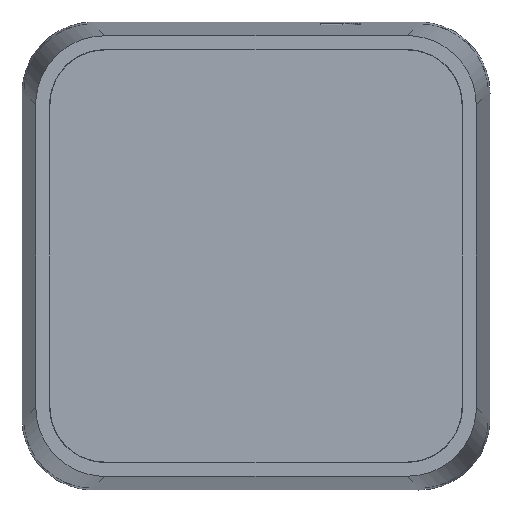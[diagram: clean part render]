
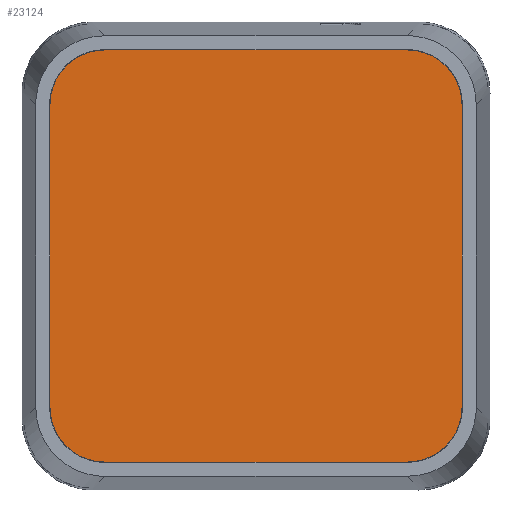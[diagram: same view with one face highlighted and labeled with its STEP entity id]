
A CAD part, front view. The second image highlights one B-rep face of the part: STEP entity #23124.
In plain terms, the highlighted planar face has unit normal (0, -1, 0).
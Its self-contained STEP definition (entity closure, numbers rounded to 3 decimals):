
#22879=CARTESIAN_POINT('',(3.732,0.,-11.663));
#22880=CARTESIAN_POINT('',(3.732,0.,-10.276));
#22881=CARTESIAN_POINT('',(4.473,0.,-7.508));
#22882=CARTESIAN_POINT('',(7.508,0.,-4.473));
#22883=CARTESIAN_POINT('',(10.276,0.,-3.732));
#22884=CARTESIAN_POINT('',(11.663,0.,-3.732));
#22886=DIRECTION('',(1.,0.,0.));
#22887=VECTOR('',#22886,43.673);
#22888=CARTESIAN_POINT('',(11.663,0.,-3.732));
#22889=LINE('',#22888,#22887);
#22890=CARTESIAN_POINT('',(55.337,0.,-3.732));
#22891=CARTESIAN_POINT('',(56.724,0.,-3.732));
#22892=CARTESIAN_POINT('',(59.492,0.,-4.473));
#22893=CARTESIAN_POINT('',(62.527,0.,-7.508));
#22894=CARTESIAN_POINT('',(63.268,0.,-10.276));
#22895=CARTESIAN_POINT('',(63.268,0.,-11.663));
#22897=DIRECTION('',(0.,0.,-1.));
#22898=VECTOR('',#22897,43.673);
#22899=CARTESIAN_POINT('',(63.268,0.,-11.663));
#22900=LINE('',#22899,#22898);
#22901=CARTESIAN_POINT('',(63.268,0.,-55.337));
#22902=CARTESIAN_POINT('',(63.268,0.,-56.724));
#22903=CARTESIAN_POINT('',(62.527,0.,-59.492));
#22904=CARTESIAN_POINT('',(59.492,0.,-62.527));
#22905=CARTESIAN_POINT('',(56.724,0.,-63.268));
#22906=CARTESIAN_POINT('',(55.337,0.,-63.268));
#22908=DIRECTION('',(-1.,0.,0.));
#22909=VECTOR('',#22908,43.673);
#22910=CARTESIAN_POINT('',(55.337,0.,-63.268));
#22911=LINE('',#22910,#22909);
#22912=CARTESIAN_POINT('',(11.663,0.,-63.268));
#22913=CARTESIAN_POINT('',(10.276,0.,-63.268));
#22914=CARTESIAN_POINT('',(7.508,0.,-62.527));
#22915=CARTESIAN_POINT('',(4.473,0.,-59.492));
#22916=CARTESIAN_POINT('',(3.732,0.,-56.724));
#22917=CARTESIAN_POINT('',(3.732,0.,-55.337));
#22919=DIRECTION('',(0.,0.,1.));
#22920=VECTOR('',#22919,43.673);
#22921=CARTESIAN_POINT('',(3.732,0.,-55.337));
#22922=LINE('',#22921,#22920);
#22934=VERTEX_POINT('',#22879);
#22935=VERTEX_POINT('',#22884);
#22936=CARTESIAN_POINT('',(3.732,0.,-55.337));
#22937=VERTEX_POINT('',#22936);
#22938=VERTEX_POINT('',#22912);
#22939=CARTESIAN_POINT('',(55.337,0.,-63.268));
#22940=VERTEX_POINT('',#22939);
#22941=VERTEX_POINT('',#22901);
#22942=CARTESIAN_POINT('',(63.268,0.,-11.663));
#22943=VERTEX_POINT('',#22942);
#22944=VERTEX_POINT('',#22890);
#23109=CARTESIAN_POINT('',(0.,0.,0.));
#23110=DIRECTION('',(0.,-1.,0.));
#23111=DIRECTION('',(1.,0.,0.));
#23112=AXIS2_PLACEMENT_3D('',#23109,#23110,#23111);
#23113=PLANE('',#23112);
#23114=ORIENTED_EDGE('',*,*,#22984,.T.);
#23115=ORIENTED_EDGE('',*,*,#22999,.T.);
#23116=ORIENTED_EDGE('',*,*,#23020,.T.);
#23117=ORIENTED_EDGE('',*,*,#23034,.T.);
#23118=ORIENTED_EDGE('',*,*,#23055,.T.);
#23119=ORIENTED_EDGE('',*,*,#23069,.T.);
#23120=ORIENTED_EDGE('',*,*,#23090,.T.);
#23121=ORIENTED_EDGE('',*,*,#23103,.T.);
#23122=EDGE_LOOP('',(#23114,#23115,#23116,#23117,#23118,#23119,#23120,#23121));
#23123=FACE_OUTER_BOUND('',#23122,.F.);
#22885=B_SPLINE_CURVE_WITH_KNOTS('',3,(#22879,#22880,#22881,#22882,#22883,
#22884),.UNSPECIFIED.,.F.,.F.,(4,1,1,4),(0.,0.333,
0.667,1.),.UNSPECIFIED.);
#22896=B_SPLINE_CURVE_WITH_KNOTS('',3,(#22890,#22891,#22892,#22893,#22894,
#22895),.UNSPECIFIED.,.F.,.F.,(4,1,1,4),(0.,0.333,
0.667,1.),.UNSPECIFIED.);
#22907=B_SPLINE_CURVE_WITH_KNOTS('',3,(#22901,#22902,#22903,#22904,#22905,
#22906),.UNSPECIFIED.,.F.,.F.,(4,1,1,4),(0.,0.333,
0.667,1.),.UNSPECIFIED.);
#22918=B_SPLINE_CURVE_WITH_KNOTS('',3,(#22912,#22913,#22914,#22915,#22916,
#22917),.UNSPECIFIED.,.F.,.F.,(4,1,1,4),(0.,0.333,
0.667,1.),.UNSPECIFIED.);
#22984=EDGE_CURVE('',#22934,#22935,#22885,.T.);
#22999=EDGE_CURVE('',#22935,#22944,#22889,.T.);
#23020=EDGE_CURVE('',#22944,#22943,#22896,.T.);
#23034=EDGE_CURVE('',#22943,#22941,#22900,.T.);
#23055=EDGE_CURVE('',#22941,#22940,#22907,.T.);
#23069=EDGE_CURVE('',#22940,#22938,#22911,.T.);
#23090=EDGE_CURVE('',#22938,#22937,#22918,.T.);
#23103=EDGE_CURVE('',#22937,#22934,#22922,.T.);
#23124=ADVANCED_FACE('',(#23123),#23113,.T.);
